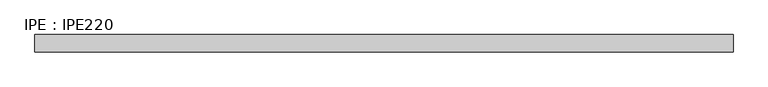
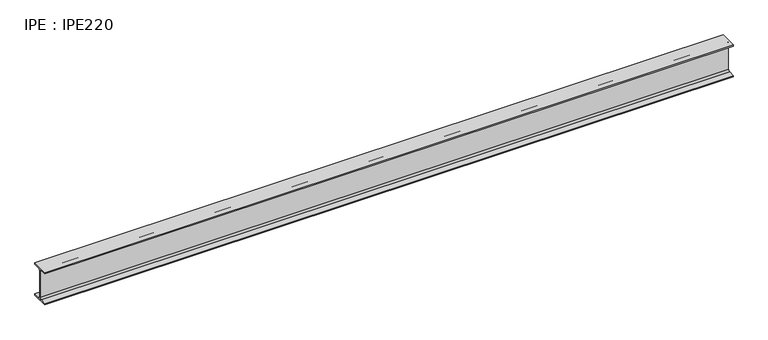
"""IFC4 building model written with IfcOpenShell, lengths in millimetres: beam geometry, IPE : IPE220."""

from ifc_helpers import new_model, si_unit, point, frame, frame_2d, origin, place, context, project, spatial, polyline, circle_curve, trimmed, segment, composite_curve, outline, extrude, source, transform, mapped, element, save


def ipe_ipe220_0ab9909e(model_context):
    return source(origin(), model_context, "Body", "SweptSolid", [
        extrude(outline(composite_curve([segment(polyline([(55.0, -100.8), (55.0, -110.0), (-55.0, -110.0), (-55.0, -100.8), (-14.95, -100.8)]), True, "CONTINUOUS"), segment(trimmed(circle_curve(frame_2d((-14.95, -88.8)), 12.0), [point((-14.95, -100.8))], [point((-2.95, -88.8))], True, "CARTESIAN"), True, "CONTINUOUS"), segment(polyline([(-2.95, -88.8), (-2.95, 88.8)]), True, "CONTINUOUS"), segment(trimmed(circle_curve(frame_2d((-14.95, 88.8)), 12.0), [point((-2.95, 88.8))], [point((-14.95, 100.8))], True, "CARTESIAN"), True, "CONTINUOUS"), segment(polyline([(-14.95, 100.8), (-55.0, 100.8), (-55.0, 110.0), (55.0, 110.0), (55.0, 100.8), (14.95, 100.8)]), True, "CONTINUOUS"), segment(trimmed(circle_curve(frame_2d((14.95, 88.8)), 12.0), [point((14.95, 100.8))], [point((2.95, 88.8))], True, "CARTESIAN"), True, "CONTINUOUS"), segment(polyline([(2.95, 88.8), (2.95, -88.8)]), True, "CONTINUOUS"), segment(trimmed(circle_curve(frame_2d((14.95, -88.8)), 12.0), [point((2.95, -88.8))], [point((14.95, -100.8))], True, "CARTESIAN"), True, "CONTINUOUS"), segment(polyline([(14.95, -100.8), (55.0, -100.8)]), True, "CONTINUOUS")], self_intersect=False)), frame((-2177.95, 0.0, 0.0), z_axis=(1.0, 0.0, 0.0), x_axis=(0.0, 1.0, 0.0)), (0.0, 0.0, 1.0), 4445.5),
    ])


if __name__ == "__main__":
    model = new_model("IFC4")
    model_context = context("Model", 3, world=origin())
    ifc_project = project(units=[si_unit("LENGTHUNIT", "METRE", prefix="MILLI")], contexts=[model_context])
    site = spatial("IfcSite", under=ifc_project)
    building = spatial("IfcBuilding", under=site)
    placement = place(None, origin())
    ipe_ipe220_shape = ipe_ipe220_0ab9909e(model_context)
    element("IfcBeam", 1, ObjectType="IPE : IPE220", at=placement, inside=building, context=model_context, shape_type="MappedRepresentation", body=[
        mapped(ipe_ipe220_shape, transform((0.0, 0.0, 0.0), x_axis=(1.0, 0.0, 0.0), y_axis=(0.0, 1.0, 0.0), z_axis=(0.0, 0.0, 1.0))),
    ])
    save(model, "model.ifc")
